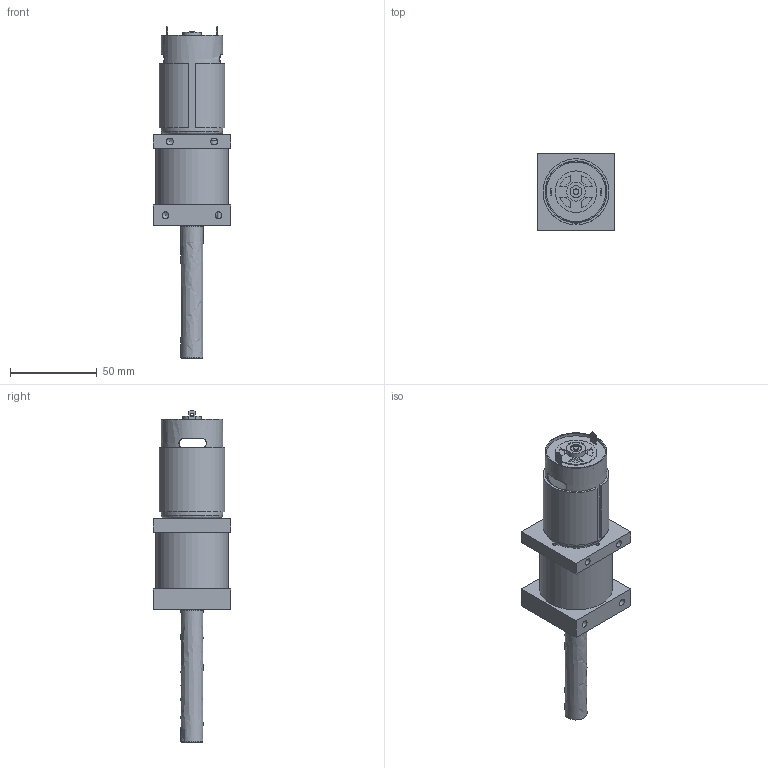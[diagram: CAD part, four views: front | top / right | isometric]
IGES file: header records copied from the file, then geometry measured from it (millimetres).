
Global section: file name: No Iges File Name specified; native system: AutoDesk Inventor R5.0; preprocessor: AutoDesk Inventor Iges Exporter R5.0; author: No Author specified; organization: No Organization specified; date: 20070115.071351; units: inch
Bounding box: 44.45 x 44.45 x 191.22 mm (x, y, z)
Surface area: 47833.2 mm2 (no closed solid volume)
Topology: 0 solids, 0 shells, 210 faces, 906 edges, 816 vertices
Faces by surface type: plane 85, revolution 73, bspline 52
